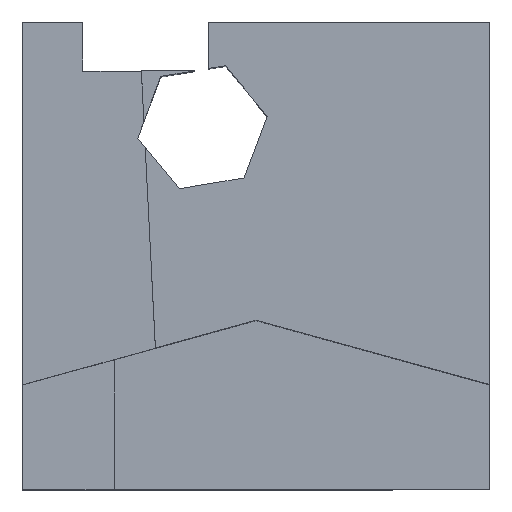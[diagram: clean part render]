
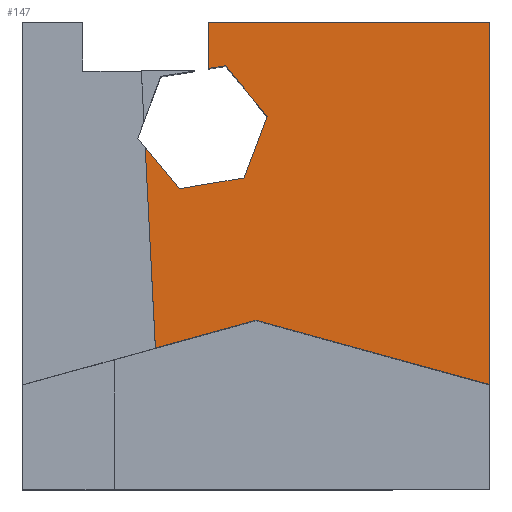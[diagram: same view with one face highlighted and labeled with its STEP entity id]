
A CAD part, top view. The second image highlights one B-rep face of the part: STEP entity #147.
In plain terms, the highlighted planar face has unit normal (0, 0, 1).
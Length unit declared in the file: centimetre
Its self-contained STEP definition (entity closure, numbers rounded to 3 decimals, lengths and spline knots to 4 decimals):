
#28 = CARTESIAN_POINT ( 'NONE',  ( 1000., 224.0824, 1000. ) ) ;
#43 = DIRECTION ( 'NONE',  ( 0.636, -0.772, 0. ) ) ;
#47 = AXIS2_PLACEMENT_3D ( 'NONE', #638, #364, #282 ) ;
#53 = LINE ( 'NONE', #322, #648 ) ;
#67 = ORIENTED_EDGE ( 'NONE', *, *, #399, .F. ) ;
#70 = CARTESIAN_POINT ( 'NONE',  ( 398.3877, 895.3948, 1000. ) ) ;
#74 = FACE_OUTER_BOUND ( 'NONE', #622, .T. ) ;
#81 = CARTESIAN_POINT ( 'NONE',  ( 500., 361.4553, 1000. ) ) ;
#83 = EDGE_CURVE ( 'NONE', #237, #596, #1207, .T. ) ;
#134 = LINE ( 'NONE', #891, #1101 ) ;
#135 = VERTEX_POINT ( 'NONE', #559 ) ;
#143 = VECTOR ( 'NONE', #43, 100. ) ;
#147 = ADVANCED_FACE ( 'NONE', ( #74 ), #1213, .T. ) ;
#188 = CARTESIAN_POINT ( 'NONE',  ( 1000., 224.0824, 1000. ) ) ;
#210 = VECTOR ( 'NONE', #976, 100. ) ;
#216 = VERTEX_POINT ( 'NONE', #298 ) ;
#237 = VERTEX_POINT ( 'NONE', #28 ) ;
#263 = EDGE_CURVE ( 'NONE', #791, #135, #665, .T. ) ;
#269 = CARTESIAN_POINT ( 'NONE',  ( 474.749, 666.3523, 1000. ) ) ;
#282 = DIRECTION ( 'NONE',  ( 1., 0., 0. ) ) ;
#292 = EDGE_CURVE ( 'NONE', #135, #712, #311, .T. ) ;
#298 = CARTESIAN_POINT ( 'NONE',  ( 284.6362, 302.285, 1000. ) ) ;
#304 = VECTOR ( 'NONE', #737, 100. ) ;
#311 = LINE ( 'NONE', #1139, #336 ) ;
#322 = CARTESIAN_POINT ( 'NONE',  ( 0., 1000., 1000. ) ) ;
#331 = VERTEX_POINT ( 'NONE', #781 ) ;
#336 = VECTOR ( 'NONE', #1048, 100. ) ;
#347 = LINE ( 'NONE', #70, #507 ) ;
#355 = LINE ( 'NONE', #81, #1153 ) ;
#363 = CARTESIAN_POINT ( 'NONE',  ( 249.2877, 1000., 1000. ) ) ;
#364 = DIRECTION ( 'NONE',  ( 0., 0., 1. ) ) ;
#383 = EDGE_CURVE ( 'NONE', #601, #1078, #500, .T. ) ;
#399 = EDGE_CURVE ( 'NONE', #712, #785, #347, .T. ) ;
#409 = LINE ( 'NONE', #495, #210 ) ;
#423 = DIRECTION ( 'NONE',  ( 0.986, 0.165, 0. ) ) ;
#433 = LINE ( 'NONE', #269, #924 ) ;
#450 = DIRECTION ( 'NONE',  ( -0.964, -0.265, 0. ) ) ;
#466 = CARTESIAN_POINT ( 'NONE',  ( 500., 361.4553, 1000. ) ) ;
#468 = CARTESIAN_POINT ( 'NONE',  ( 336.089, 643.193, 1000. ) ) ;
#495 = CARTESIAN_POINT ( 'NONE',  ( 1000., 1000., 1000. ) ) ;
#500 = LINE ( 'NONE', #880, #143 ) ;
#507 = VECTOR ( 'NONE', #556, 100. ) ;
#534 = VECTOR ( 'NONE', #549, 100. ) ;
#547 = EDGE_CURVE ( 'NONE', #596, #216, #355, .T. ) ;
#549 = DIRECTION ( 'NONE',  ( -0.964, 0.265, 0. ) ) ;
#556 = DIRECTION ( 'NONE',  ( 0., 1., 0. ) ) ;
#559 = CARTESIAN_POINT ( 'NONE',  ( 434.6359, 906.5183, 1000. ) ) ;
#596 = VERTEX_POINT ( 'NONE', #466 ) ;
#601 = VERTEX_POINT ( 'NONE', #673 ) ;
#618 = ORIENTED_EDGE ( 'NONE', *, *, #1180, .F. ) ;
#622 = EDGE_LOOP ( 'NONE', ( #618, #903, #815, #1168, #1187, #67, #1011, #1193, #995, #790, #1100 ) ) ;
#638 = CARTESIAN_POINT ( 'NONE',  ( 0., 0., 1000. ) ) ;
#648 = VECTOR ( 'NONE', #968, 100. ) ;
#665 = LINE ( 'NONE', #677, #1130 ) ;
#673 = CARTESIAN_POINT ( 'NONE',  ( 262.8613, 732.0818, 1000. ) ) ;
#677 = CARTESIAN_POINT ( 'NONE',  ( 524.0224, 798.0149, 1000. ) ) ;
#697 = CARTESIAN_POINT ( 'NONE',  ( 524.0224, 798.0149, 1000. ) ) ;
#712 = VERTEX_POINT ( 'NONE', #783 ) ;
#731 = EDGE_CURVE ( 'NONE', #1172, #785, #53, .T. ) ;
#737 = DIRECTION ( 'NONE',  ( -0.051, 0.999, 0. ) ) ;
#758 = DIRECTION ( 'NONE',  ( -0.636, 0.772, 0. ) ) ;
#780 = EDGE_CURVE ( 'NONE', #237, #1172, #409, .T. ) ;
#781 = CARTESIAN_POINT ( 'NONE',  ( 474.749, 666.3523, 1000. ) ) ;
#783 = CARTESIAN_POINT ( 'NONE',  ( 398.3877, 900.4641, 1000. ) ) ;
#785 = VERTEX_POINT ( 'NONE', #877 ) ;
#790 = ORIENTED_EDGE ( 'NONE', *, *, #814, .F. ) ;
#791 = VERTEX_POINT ( 'NONE', #697 ) ;
#814 = EDGE_CURVE ( 'NONE', #1078, #331, #134, .T. ) ;
#815 = ORIENTED_EDGE ( 'NONE', *, *, #83, .F. ) ;
#877 = CARTESIAN_POINT ( 'NONE',  ( 398.3877, 1000., 1000. ) ) ;
#880 = CARTESIAN_POINT ( 'NONE',  ( 246.7025, 751.6964, 1000. ) ) ;
#891 = CARTESIAN_POINT ( 'NONE',  ( 336.089, 643.193, 1000. ) ) ;
#903 = ORIENTED_EDGE ( 'NONE', *, *, #547, .F. ) ;
#924 = VECTOR ( 'NONE', #1190, 100. ) ;
#968 = DIRECTION ( 'NONE',  ( -1., 0., 0. ) ) ;
#976 = DIRECTION ( 'NONE',  ( 0., 1., 0. ) ) ;
#989 = EDGE_CURVE ( 'NONE', #331, #791, #433, .T. ) ;
#995 = ORIENTED_EDGE ( 'NONE', *, *, #989, .F. ) ;
#1011 = ORIENTED_EDGE ( 'NONE', *, *, #292, .F. ) ;
#1037 = LINE ( 'NONE', #363, #304 ) ;
#1048 = DIRECTION ( 'NONE',  ( -0.986, -0.165, 0. ) ) ;
#1078 = VERTEX_POINT ( 'NONE', #468 ) ;
#1100 = ORIENTED_EDGE ( 'NONE', *, *, #383, .F. ) ;
#1101 = VECTOR ( 'NONE', #423, 100. ) ;
#1130 = VECTOR ( 'NONE', #758, 100. ) ;
#1139 = CARTESIAN_POINT ( 'NONE',  ( 434.6359, 906.5183, 1000. ) ) ;
#1153 = VECTOR ( 'NONE', #450, 100. ) ;
#1168 = ORIENTED_EDGE ( 'NONE', *, *, #780, .T. ) ;
#1172 = VERTEX_POINT ( 'NONE', #1210 ) ;
#1180 = EDGE_CURVE ( 'NONE', #216, #601, #1037, .T. ) ;
#1187 = ORIENTED_EDGE ( 'NONE', *, *, #731, .T. ) ;
#1190 = DIRECTION ( 'NONE',  ( 0.35, 0.937, 0. ) ) ;
#1193 = ORIENTED_EDGE ( 'NONE', *, *, #263, .F. ) ;
#1207 = LINE ( 'NONE', #188, #534 ) ;
#1210 = CARTESIAN_POINT ( 'NONE',  ( 1000., 1000., 1000. ) ) ;
#1213 = PLANE ( 'NONE',  #47 ) ;
